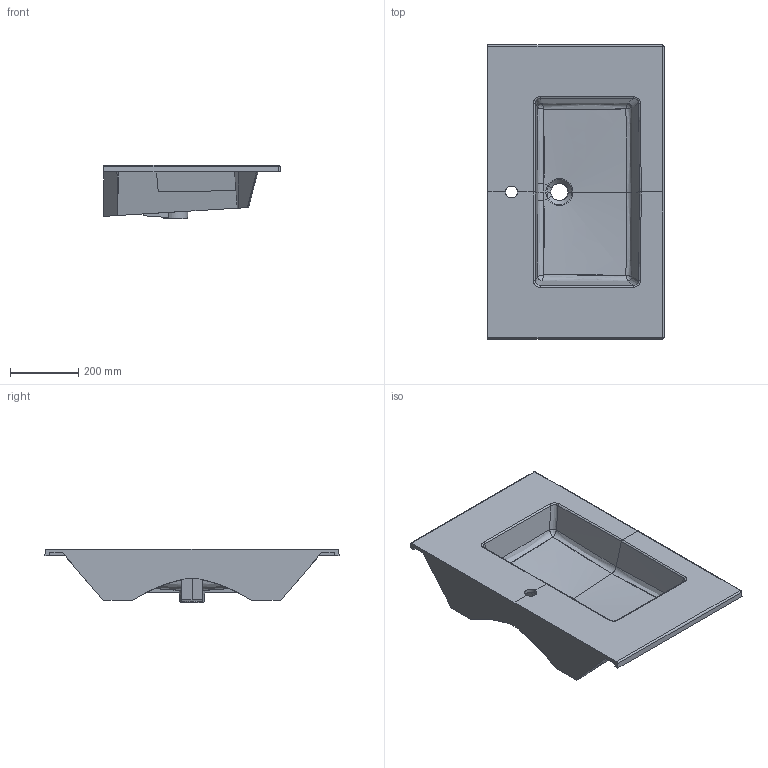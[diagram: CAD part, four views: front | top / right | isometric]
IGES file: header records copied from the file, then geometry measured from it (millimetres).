
Start section: START RECORD GO HERE.
Global section: file name: 2031_Lav PLUS 86.igs; native system: DASSAULT SYSTEMES CATIA V5 R19 - www.3ds.com; preprocessor: CATIA Version 5 Release 19 SP 5 ; author: gioge; organization: LAPTOP-G94B6G74; date: 20200622.114830; units: millimetre
Bounding box: 517 x 862.1 x 157.4 mm (x, y, z)
Surface area: 1438396.9 mm2 (no closed solid volume)
Topology: 0 solids, 0 shells, 132 faces, 707 edges, 699 vertices
Faces by surface type: bspline 62, revolution 36, plane 32, extrusion 2
